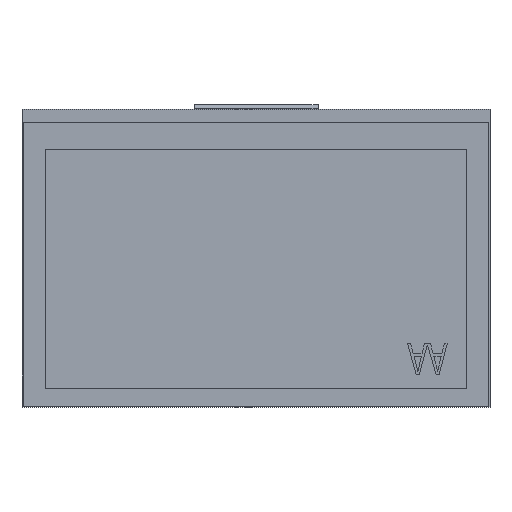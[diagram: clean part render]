
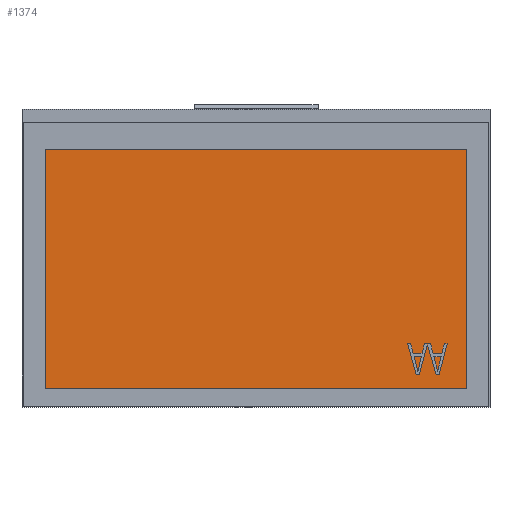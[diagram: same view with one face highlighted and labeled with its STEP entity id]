
A CAD part, top view. The second image highlights one B-rep face of the part: STEP entity #1374.
In plain terms, the highlighted planar face has unit normal (0, 0, 1).
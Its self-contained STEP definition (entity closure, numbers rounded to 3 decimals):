
#1374=ADVANCED_FACE('',(#1685),#1530,.T.);
#1530=PLANE('',#3861);
#1685=FACE_OUTER_BOUND('',#1841,.T.);
#1841=EDGE_LOOP('',(#2043,#2044,#2045,#2046));
#2043=ORIENTED_EDGE('',*,*,#2907,.T.);
#2044=ORIENTED_EDGE('',*,*,#2911,.T.);
#2045=ORIENTED_EDGE('',*,*,#2914,.T.);
#2046=ORIENTED_EDGE('',*,*,#2916,.T.);
#2677=VERTEX_POINT('',#4696);
#2678=VERTEX_POINT('',#4698);
#2680=VERTEX_POINT('',#4704);
#2682=VERTEX_POINT('',#4710);
#2907=EDGE_CURVE('',#2678,#2677,#3239,.T.);
#2911=EDGE_CURVE('',#2677,#2680,#3243,.T.);
#2914=EDGE_CURVE('',#2680,#2682,#3246,.T.);
#2916=EDGE_CURVE('',#2682,#2678,#3248,.T.);
#3239=LINE('',#4697,#3549);
#3243=LINE('',#4705,#3553);
#3246=LINE('',#4711,#3556);
#3248=LINE('',#4714,#3558);
#3549=VECTOR('',#4052,1.);
#3553=VECTOR('',#4058,1.);
#3556=VECTOR('',#4063,1.);
#3558=VECTOR('',#4067,1.);
#3861=AXIS2_PLACEMENT_3D('',#4716,#4070,#4071);
#4052=DIRECTION('',(0.,-1.,0.));
#4058=DIRECTION('',(1.,0.,0.));
#4063=DIRECTION('',(0.,1.,0.));
#4067=DIRECTION('',(-1.,0.,0.));
#4070=DIRECTION('',(0.,0.,1.));
#4071=DIRECTION('',(1.,0.,0.));
#4696=CARTESIAN_POINT('',(-35.22,-27.7,5.6));
#4697=CARTESIAN_POINT('',(-35.22,26.16,5.6));
#4698=CARTESIAN_POINT('',(-35.22,26.16,5.6));
#4704=CARTESIAN_POINT('',(59.82,-27.7,5.6));
#4705=CARTESIAN_POINT('',(-35.22,-27.7,5.6));
#4710=CARTESIAN_POINT('',(59.82,26.16,5.6));
#4711=CARTESIAN_POINT('',(59.82,-27.7,5.6));
#4714=CARTESIAN_POINT('',(59.82,26.16,5.6));
#4716=CARTESIAN_POINT('',(0.26,0.37,5.6));
